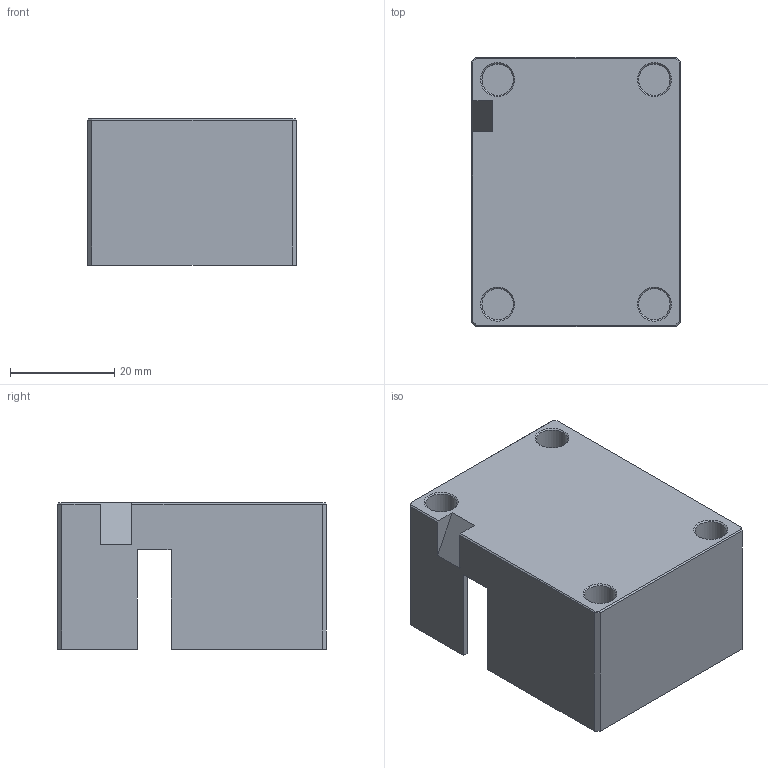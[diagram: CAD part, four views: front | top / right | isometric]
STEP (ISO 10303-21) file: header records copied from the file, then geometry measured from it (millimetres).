
FILE_DESCRIPTION(/* description */ (''),/* implementation_level */ '2;1');
FILE_NAME(/* name */ '/Volumes/TB SSD 2TB/projects/toolhead-cover/Tool-Changer Cover__wedge.step',/* time_stamp */ '2021-05-10T16:59:18+02:00',/* author */ (''),/* organization */ (''),/* preprocessor_version */ 'ST-DEVELOPER v18.1',/* originating_system */ 'Autodesk Translation Framework v10.6.0.1341',/* authorisation */ '');
FILE_SCHEMA (('AUTOMOTIVE_DESIGN { 1 0 10303 214 3 1 1 }'));
Length unit declared in the file: millimetre
Products named in the file (2): Tool-Changer Cover__wedge; Tool-Changer Cover
Assembly tree (1 placements, depth 2):
  Tool-Changer Cover__wedge
    Tool-Changer Cover
Bounding box: 40 x 51.5 x 28 mm (x, y, z)
Volume: 8442.9 mm3; surface area: 14095.7 mm2
Topology: 1 solids, 1 shells, 91 faces, 228 edges, 148 vertices
Faces by surface type: plane 64, cylinder 23, cone 4
Full cylindrical faces by diameter (mm): 3.2 x4, 6 x4
Entity records: 2756 total; most frequent: CARTESIAN_POINT 470, DIRECTION 466, ORIENTED_EDGE 456, EDGE_CURVE 228, LINE 178, VECTOR 178, VERTEX_POINT 148, AXIS2_PLACEMENT_3D 144
